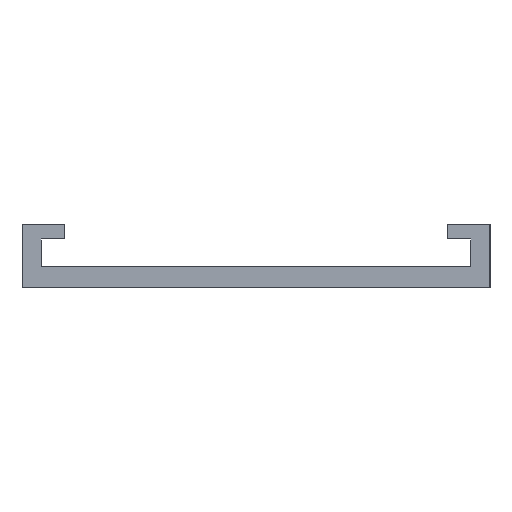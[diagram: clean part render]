
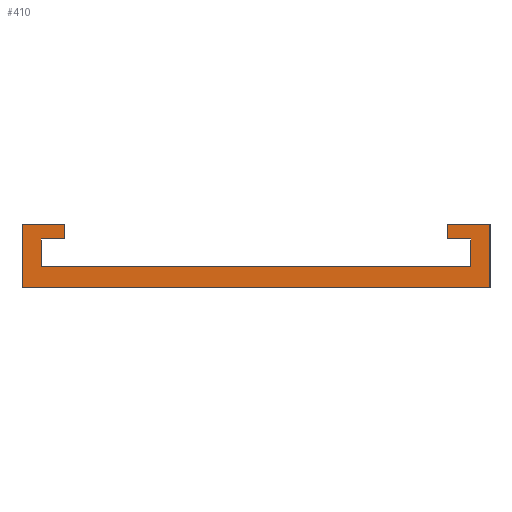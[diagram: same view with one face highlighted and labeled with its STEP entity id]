
A CAD part, left-side view. The second image highlights one B-rep face of the part: STEP entity #410.
In plain terms, the highlighted planar face has unit normal (-1, 0, 0).
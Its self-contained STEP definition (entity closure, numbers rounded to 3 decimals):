
#1 = DIRECTION ( 'NONE',  ( 1., 0., 0. ) ) ;
#5 = CARTESIAN_POINT ( 'NONE',  ( 0., -55., 0. ) ) ;
#9 = ORIENTED_EDGE ( 'NONE', *, *, #393, .F. ) ;
#12 = VECTOR ( 'NONE', #146, 1000. ) ;
#13 = EDGE_CURVE ( 'NONE', #328, #402, #54, .T. ) ;
#24 = CARTESIAN_POINT ( 'NONE',  ( 0., 50.5, 11.5 ) ) ;
#26 = CARTESIAN_POINT ( 'NONE',  ( 0., -45., 11.5 ) ) ;
#42 = ORIENTED_EDGE ( 'NONE', *, *, #404, .F. ) ;
#49 = VECTOR ( 'NONE', #390, 1000. ) ;
#51 = EDGE_CURVE ( 'NONE', #268, #298, #430, .T. ) ;
#53 = EDGE_CURVE ( 'NONE', #243, #333, #260, .T. ) ;
#54 = LINE ( 'NONE', #342, #317 ) ;
#57 = CARTESIAN_POINT ( 'NONE',  ( 0., 50.5, 5. ) ) ;
#60 = VECTOR ( 'NONE', #416, 1000. ) ;
#62 = EDGE_CURVE ( 'NONE', #456, #408, #160, .T. ) ;
#67 = PLANE ( 'NONE',  #121 ) ;
#72 = CARTESIAN_POINT ( 'NONE',  ( 0., -55., 15. ) ) ;
#73 = LINE ( 'NONE', #26, #184 ) ;
#74 = EDGE_CURVE ( 'NONE', #340, #243, #338, .T. ) ;
#80 = FACE_OUTER_BOUND ( 'NONE', #168, .T. ) ;
#99 = CARTESIAN_POINT ( 'NONE',  ( 0., -45., 15. ) ) ;
#121 = AXIS2_PLACEMENT_3D ( 'NONE', #143, #1, #427 ) ;
#125 = CARTESIAN_POINT ( 'NONE',  ( 0., 45., 15. ) ) ;
#128 = ORIENTED_EDGE ( 'NONE', *, *, #13, .F. ) ;
#138 = VERTEX_POINT ( 'NONE', #318 ) ;
#143 = CARTESIAN_POINT ( 'NONE',  ( 0., 0., 0. ) ) ;
#146 = DIRECTION ( 'NONE',  ( 0., -1., 0. ) ) ;
#152 = VECTOR ( 'NONE', #411, 1000. ) ;
#160 = LINE ( 'NONE', #125, #290 ) ;
#164 = ORIENTED_EDGE ( 'NONE', *, *, #74, .F. ) ;
#167 = CARTESIAN_POINT ( 'NONE',  ( 0., -45., 11.5 ) ) ;
#168 = EDGE_LOOP ( 'NONE', ( #391, #440, #401, #128, #9, #439, #164, #42, #380, #364, #377, #336 ) ) ;
#176 = CARTESIAN_POINT ( 'NONE',  ( 0., -55., 15. ) ) ;
#177 = VECTOR ( 'NONE', #381, 1000. ) ;
#184 = VECTOR ( 'NONE', #274, 1000. ) ;
#193 = LINE ( 'NONE', #315, #177 ) ;
#200 = VECTOR ( 'NONE', #458, 1000. ) ;
#217 = CARTESIAN_POINT ( 'NONE',  ( 0., 55., 15. ) ) ;
#225 = EDGE_CURVE ( 'NONE', #138, #268, #238, .T. ) ;
#229 = CARTESIAN_POINT ( 'NONE',  ( 0., -50.5, 11.5 ) ) ;
#230 = VECTOR ( 'NONE', #280, 1000. ) ;
#238 = LINE ( 'NONE', #5, #407 ) ;
#243 = VERTEX_POINT ( 'NONE', #229 ) ;
#245 = CARTESIAN_POINT ( 'NONE',  ( 0., -50.5, 5. ) ) ;
#251 = LINE ( 'NONE', #57, #12 ) ;
#253 = DIRECTION ( 'NONE',  ( 0., 0., -1. ) ) ;
#260 = LINE ( 'NONE', #450, #60 ) ;
#268 = VERTEX_POINT ( 'NONE', #379 ) ;
#270 = VERTEX_POINT ( 'NONE', #24 ) ;
#274 = DIRECTION ( 'NONE',  ( 0., 0., 1. ) ) ;
#277 = DIRECTION ( 'NONE',  ( 0., -1., 0. ) ) ;
#280 = DIRECTION ( 'NONE',  ( 0., 0., 1. ) ) ;
#285 = EDGE_CURVE ( 'NONE', #408, #270, #193, .T. ) ;
#289 = CARTESIAN_POINT ( 'NONE',  ( 0., 45., 15. ) ) ;
#290 = VECTOR ( 'NONE', #306, 1000. ) ;
#292 = CARTESIAN_POINT ( 'NONE',  ( 0., 45., 11.5 ) ) ;
#298 = VERTEX_POINT ( 'NONE', #217 ) ;
#306 = DIRECTION ( 'NONE',  ( 0., 0., -1. ) ) ;
#313 = VECTOR ( 'NONE', #253, 1000. ) ;
#315 = CARTESIAN_POINT ( 'NONE',  ( 0., 45., 11.5 ) ) ;
#317 = VECTOR ( 'NONE', #277, 1000. ) ;
#318 = CARTESIAN_POINT ( 'NONE',  ( 0., -55., 0. ) ) ;
#328 = VERTEX_POINT ( 'NONE', #99 ) ;
#333 = VERTEX_POINT ( 'NONE', #167 ) ;
#335 = EDGE_CURVE ( 'NONE', #298, #456, #365, .T. ) ;
#336 = ORIENTED_EDGE ( 'NONE', *, *, #335, .F. ) ;
#338 = LINE ( 'NONE', #245, #152 ) ;
#340 = VERTEX_POINT ( 'NONE', #455 ) ;
#342 = CARTESIAN_POINT ( 'NONE',  ( 0., -45., 15. ) ) ;
#345 = CARTESIAN_POINT ( 'NONE',  ( 0., 55., 15. ) ) ;
#359 = LINE ( 'NONE', #360, #200 ) ;
#360 = CARTESIAN_POINT ( 'NONE',  ( 0., 50.5, 11.5 ) ) ;
#364 = ORIENTED_EDGE ( 'NONE', *, *, #285, .F. ) ;
#365 = LINE ( 'NONE', #345, #49 ) ;
#377 = ORIENTED_EDGE ( 'NONE', *, *, #62, .F. ) ;
#378 = CARTESIAN_POINT ( 'NONE',  ( 0., 55., 0. ) ) ;
#379 = CARTESIAN_POINT ( 'NONE',  ( 0., 55., 0. ) ) ;
#380 = ORIENTED_EDGE ( 'NONE', *, *, #406, .F. ) ;
#381 = DIRECTION ( 'NONE',  ( 0., 1., 0. ) ) ;
#384 = LINE ( 'NONE', #72, #313 ) ;
#388 = CARTESIAN_POINT ( 'NONE',  ( 0., 50.5, 5. ) ) ;
#390 = DIRECTION ( 'NONE',  ( 0., -1., 0. ) ) ;
#391 = ORIENTED_EDGE ( 'NONE', *, *, #51, .F. ) ;
#393 = EDGE_CURVE ( 'NONE', #333, #328, #73, .T. ) ;
#396 = VERTEX_POINT ( 'NONE', #388 ) ;
#401 = ORIENTED_EDGE ( 'NONE', *, *, #429, .F. ) ;
#402 = VERTEX_POINT ( 'NONE', #176 ) ;
#404 = EDGE_CURVE ( 'NONE', #396, #340, #251, .T. ) ;
#406 = EDGE_CURVE ( 'NONE', #270, #396, #359, .T. ) ;
#407 = VECTOR ( 'NONE', #436, 1000. ) ;
#408 = VERTEX_POINT ( 'NONE', #292 ) ;
#410 = ADVANCED_FACE ( 'NONE', ( #80 ), #67, .F. ) ;
#411 = DIRECTION ( 'NONE',  ( 0., 0., 1. ) ) ;
#416 = DIRECTION ( 'NONE',  ( 0., 1., 0. ) ) ;
#427 = DIRECTION ( 'NONE',  ( 0., 0., -1. ) ) ;
#429 = EDGE_CURVE ( 'NONE', #402, #138, #384, .T. ) ;
#430 = LINE ( 'NONE', #378, #230 ) ;
#436 = DIRECTION ( 'NONE',  ( 0., 1., 0. ) ) ;
#439 = ORIENTED_EDGE ( 'NONE', *, *, #53, .F. ) ;
#440 = ORIENTED_EDGE ( 'NONE', *, *, #225, .F. ) ;
#450 = CARTESIAN_POINT ( 'NONE',  ( 0., -50.5, 11.5 ) ) ;
#455 = CARTESIAN_POINT ( 'NONE',  ( 0., -50.5, 5. ) ) ;
#456 = VERTEX_POINT ( 'NONE', #289 ) ;
#458 = DIRECTION ( 'NONE',  ( 0., 0., -1. ) ) ;
